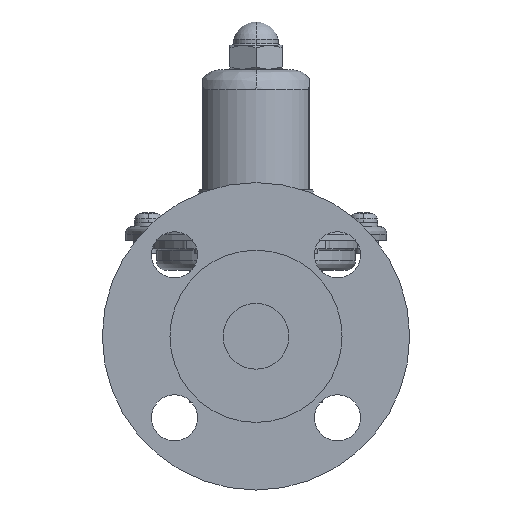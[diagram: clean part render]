
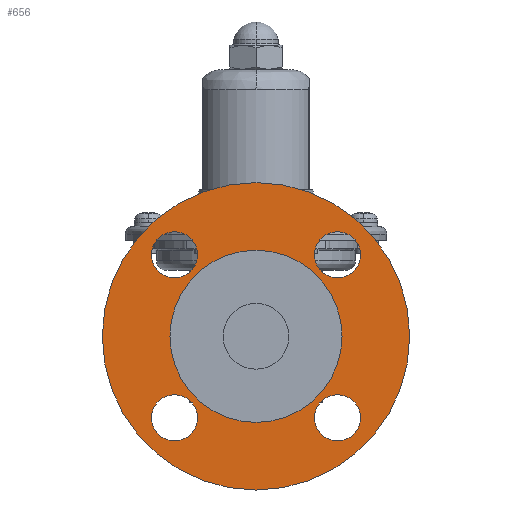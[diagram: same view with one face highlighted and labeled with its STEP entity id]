
A CAD part, left-side view. The second image highlights one B-rep face of the part: STEP entity #656.
In plain terms, the highlighted planar face has unit normal (-1, 0, 0).
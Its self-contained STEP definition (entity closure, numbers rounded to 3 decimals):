
#656=ADVANCED_FACE('',(#3610,#3611,#3612,#3613,#3614,#3615),#3609,.T.);
#3609=PLANE('',#8032);
#3610=FACE_OUTER_BOUND('',#8033,.T.);
#3611=FACE_BOUND('',#8034,.T.);
#3612=FACE_BOUND('',#8035,.T.);
#3613=FACE_BOUND('',#8036,.T.);
#3614=FACE_BOUND('',#8037,.T.);
#3615=FACE_BOUND('',#8038,.T.);
#8029=CARTESIAN_POINT('',(-96.5,-96.603,-110.));
#8030=DIRECTION('',(-1.,0.,0.));
#8031=DIRECTION('',(0.,0.,1.));
#8032=AXIS2_PLACEMENT_3D('',#8029,#8030,#8031);
#8033=EDGE_LOOP('',(#10882,#10883));
#8034=EDGE_LOOP('',(#10884,#10885));
#8035=EDGE_LOOP('',(#10886,#10887));
#8036=EDGE_LOOP('',(#10888,#10889));
#8037=EDGE_LOOP('',(#10890,#10891));
#8038=EDGE_LOOP('',(#10892,#10893));
#10882=ORIENTED_EDGE('',*,*,#12724,.F.);
#10883=ORIENTED_EDGE('',*,*,#12725,.F.);
#10884=ORIENTED_EDGE('',*,*,#12726,.T.);
#10885=ORIENTED_EDGE('',*,*,#12727,.T.);
#10886=ORIENTED_EDGE('',*,*,#12728,.T.);
#10887=ORIENTED_EDGE('',*,*,#12729,.T.);
#10888=ORIENTED_EDGE('',*,*,#12730,.T.);
#10889=ORIENTED_EDGE('',*,*,#12731,.T.);
#10890=ORIENTED_EDGE('',*,*,#12732,.T.);
#10891=ORIENTED_EDGE('',*,*,#12733,.T.);
#10892=ORIENTED_EDGE('',*,*,#12734,.F.);
#10893=ORIENTED_EDGE('',*,*,#12735,.F.);
#12724=EDGE_CURVE('',#18427,#18428,#18429,.T.);
#12725=EDGE_CURVE('',#18428,#18427,#18435,.T.);
#12726=EDGE_CURVE('',#18441,#18442,#18443,.T.);
#12727=EDGE_CURVE('',#18442,#18441,#18449,.T.);
#12728=EDGE_CURVE('',#18455,#18456,#18457,.T.);
#12729=EDGE_CURVE('',#18456,#18455,#18463,.T.);
#12730=EDGE_CURVE('',#18469,#18470,#18471,.T.);
#12731=EDGE_CURVE('',#18470,#18469,#18477,.T.);
#12732=EDGE_CURVE('',#18483,#18484,#18485,.T.);
#12733=EDGE_CURVE('',#18484,#18483,#18491,.T.);
#12734=EDGE_CURVE('',#18497,#18498,#18499,.T.);
#12735=EDGE_CURVE('',#18498,#18497,#18505,.T.);
#18427=VERTEX_POINT('',#25099);
#18428=VERTEX_POINT('',#25100);
#18429=CIRCLE('',#25104,50.);
#18435=CIRCLE('',#25108,50.);
#18441=VERTEX_POINT('',#25109);
#18442=VERTEX_POINT('',#25110);
#18443=CIRCLE('',#25114,7.5);
#18449=CIRCLE('',#25118,7.5);
#18455=VERTEX_POINT('',#25119);
#18456=VERTEX_POINT('',#25120);
#18457=CIRCLE('',#25124,7.5);
#18463=CIRCLE('',#25128,7.5);
#18469=VERTEX_POINT('',#25129);
#18470=VERTEX_POINT('',#25130);
#18471=CIRCLE('',#25134,7.5);
#18477=CIRCLE('',#25138,7.5);
#18483=VERTEX_POINT('',#25139);
#18484=VERTEX_POINT('',#25140);
#18485=CIRCLE('',#25144,7.5);
#18491=CIRCLE('',#25148,7.5);
#18497=VERTEX_POINT('',#25149);
#18498=VERTEX_POINT('',#25150);
#18499=CIRCLE('',#25154,28.);
#18505=CIRCLE('',#25158,28.);
#25099=CARTESIAN_POINT('',(-96.5,0.,-50.));
#25100=CARTESIAN_POINT('',(-96.5,0.,50.));
#25101=CARTESIAN_POINT('',(-96.5,0.,0.));
#25102=DIRECTION('',(1.,0.,0.));
#25103=DIRECTION('',(0.,0.,1.));
#25104=AXIS2_PLACEMENT_3D('',#25101,#25102,#25103);
#25105=CARTESIAN_POINT('',(-96.5,0.,0.));
#25106=DIRECTION('',(1.,0.,0.));
#25107=DIRECTION('',(0.,0.,1.));
#25108=AXIS2_PLACEMENT_3D('',#25105,#25106,#25107);
#25109=CARTESIAN_POINT('',(-96.5,-26.517,-19.017));
#25110=CARTESIAN_POINT('',(-96.5,-26.517,-34.017));
#25111=CARTESIAN_POINT('',(-96.5,-26.517,-26.517));
#25112=DIRECTION('',(1.,0.,0.));
#25113=DIRECTION('',(0.,0.,1.));
#25114=AXIS2_PLACEMENT_3D('',#25111,#25112,#25113);
#25115=CARTESIAN_POINT('',(-96.5,-26.517,-26.517));
#25116=DIRECTION('',(1.,0.,0.));
#25117=DIRECTION('',(0.,0.,1.));
#25118=AXIS2_PLACEMENT_3D('',#25115,#25116,#25117);
#25119=CARTESIAN_POINT('',(-96.5,26.517,-19.017));
#25120=CARTESIAN_POINT('',(-96.5,26.517,-34.017));
#25121=CARTESIAN_POINT('',(-96.5,26.517,-26.517));
#25122=DIRECTION('',(1.,0.,0.));
#25123=DIRECTION('',(0.,0.,1.));
#25124=AXIS2_PLACEMENT_3D('',#25121,#25122,#25123);
#25125=CARTESIAN_POINT('',(-96.5,26.517,-26.517));
#25126=DIRECTION('',(1.,0.,0.));
#25127=DIRECTION('',(0.,0.,1.));
#25128=AXIS2_PLACEMENT_3D('',#25125,#25126,#25127);
#25129=CARTESIAN_POINT('',(-96.5,26.517,34.017));
#25130=CARTESIAN_POINT('',(-96.5,26.517,19.017));
#25131=CARTESIAN_POINT('',(-96.5,26.517,26.517));
#25132=DIRECTION('',(1.,0.,0.));
#25133=DIRECTION('',(0.,0.,1.));
#25134=AXIS2_PLACEMENT_3D('',#25131,#25132,#25133);
#25135=CARTESIAN_POINT('',(-96.5,26.517,26.517));
#25136=DIRECTION('',(1.,0.,0.));
#25137=DIRECTION('',(0.,0.,1.));
#25138=AXIS2_PLACEMENT_3D('',#25135,#25136,#25137);
#25139=CARTESIAN_POINT('',(-96.5,-26.517,34.017));
#25140=CARTESIAN_POINT('',(-96.5,-26.517,19.017));
#25141=CARTESIAN_POINT('',(-96.5,-26.517,26.517));
#25142=DIRECTION('',(1.,0.,0.));
#25143=DIRECTION('',(0.,0.,1.));
#25144=AXIS2_PLACEMENT_3D('',#25141,#25142,#25143);
#25145=CARTESIAN_POINT('',(-96.5,-26.517,26.517));
#25146=DIRECTION('',(1.,0.,0.));
#25147=DIRECTION('',(0.,0.,1.));
#25148=AXIS2_PLACEMENT_3D('',#25145,#25146,#25147);
#25149=CARTESIAN_POINT('',(-96.5,0.,-28.));
#25150=CARTESIAN_POINT('',(-96.5,0.,28.));
#25151=CARTESIAN_POINT('',(-96.5,0.,0.));
#25152=DIRECTION('',(-1.,0.,0.));
#25153=DIRECTION('',(0.,0.,1.));
#25154=AXIS2_PLACEMENT_3D('',#25151,#25152,#25153);
#25155=CARTESIAN_POINT('',(-96.5,0.,0.));
#25156=DIRECTION('',(-1.,0.,0.));
#25157=DIRECTION('',(0.,0.,1.));
#25158=AXIS2_PLACEMENT_3D('',#25155,#25156,#25157);
